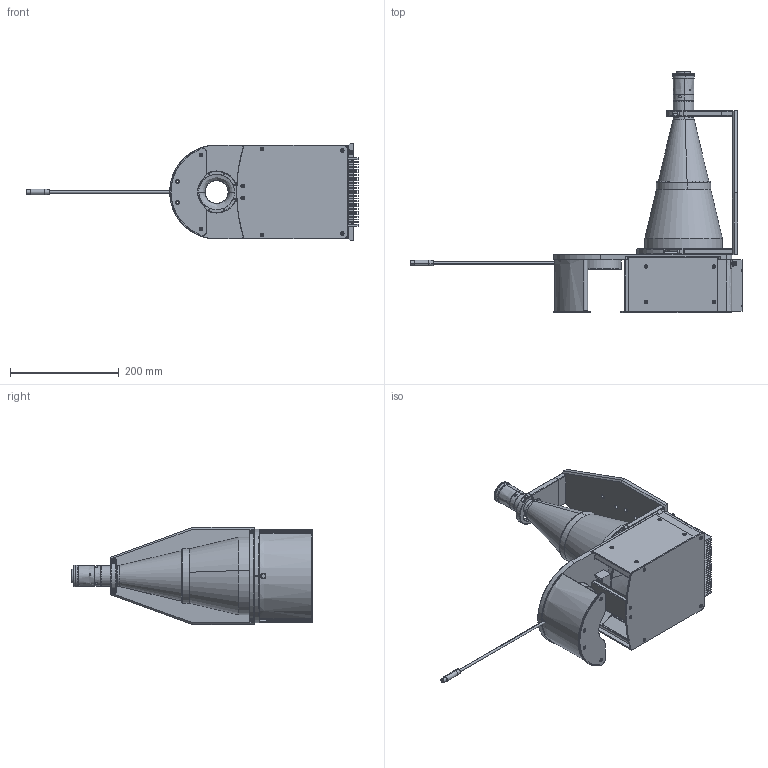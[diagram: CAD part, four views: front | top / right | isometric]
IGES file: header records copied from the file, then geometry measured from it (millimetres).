
Start section: SolidWorks IGES file using analytic representation for surfaces
Global section: file name: \\172.16.20.198\dati\R&D\01 archivio\DPXXXXX-X\DP30036-B_TCCAGE3MHR096HP-C.igs; native system: SolidWorks 2021; preprocessor: SolidWorks 2021; author: lrizzotto; date: 220120.092812; units: millimetre
Bounding box: 611.73 x 445.18 x 179 mm (x, y, z)
Surface area: 722358.2 mm2 (no closed solid volume)
Topology: 0 solids, 0 shells, 948 faces, 15657 edges, 15647 vertices
Faces by surface type: bspline 594, revolution 354
